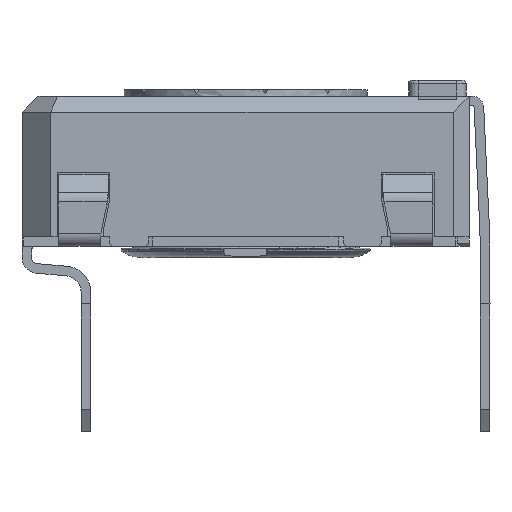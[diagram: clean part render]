
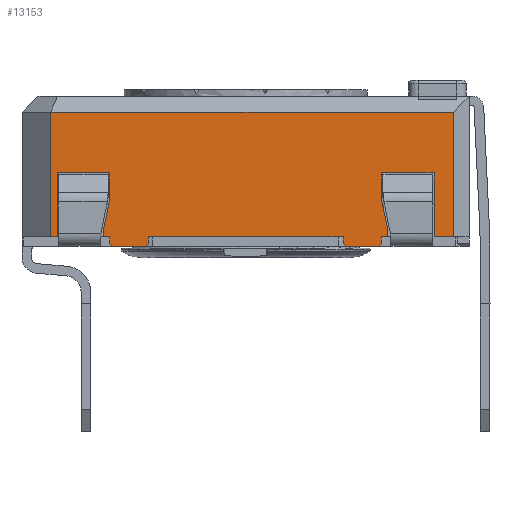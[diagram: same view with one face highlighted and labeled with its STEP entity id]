
A CAD part, left-side view. The second image highlights one B-rep face of the part: STEP entity #13153.
In plain terms, the highlighted planar face has unit normal (-1, 0, 0).
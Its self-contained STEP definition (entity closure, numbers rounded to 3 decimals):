
#1033=FACE_OUTER_BOUND('',#1731,.T.);
#1731=EDGE_LOOP('',(#10495,#10496,#10497,#10498,#10499,#10500,#10501,#10502,
#10503,#10504,#10505,#10506,#10507,#10508,#10509,#10510,#10511,#10512,#10513,
#10514,#10515,#10516,#10517,#10518,#10519,#10520,#10521,#10522));
#2737=LINE('',#20070,#4249);
#2743=LINE('',#20082,#4255);
#2746=LINE('',#20089,#4258);
#2751=LINE('',#20098,#4263);
#2771=LINE('',#20139,#4283);
#2785=LINE('',#20165,#4297);
#2789=LINE('',#20172,#4301);
#2804=LINE('',#20201,#4316);
#2807=LINE('',#20207,#4319);
#2812=LINE('',#20217,#4324);
#2815=LINE('',#20223,#4327);
#2818=LINE('',#20229,#4330);
#2836=LINE('',#20264,#4348);
#2848=LINE('',#20286,#4360);
#2851=LINE('',#20292,#4363);
#2888=LINE('',#20426,#4400);
#2891=LINE('',#20432,#4403);
#2917=LINE('',#20479,#4429);
#2922=LINE('',#20489,#4434);
#2924=LINE('',#20492,#4436);
#3048=LINE('',#20800,#4560);
#3050=LINE('',#20805,#4562);
#3053=LINE('',#20809,#4565);
#3055=LINE('',#20813,#4567);
#3058=LINE('',#20821,#4570);
#3059=LINE('',#20823,#4571);
#3060=LINE('',#20824,#4572);
#3061=LINE('',#20825,#4573);
#4249=VECTOR('',#16142,10.);
#4255=VECTOR('',#16150,10.);
#4258=VECTOR('',#16155,10.);
#4263=VECTOR('',#16162,10.);
#4283=VECTOR('',#16196,10.);
#4297=VECTOR('',#16210,10.);
#4301=VECTOR('',#16214,10.);
#4316=VECTOR('',#16241,10.);
#4319=VECTOR('',#16246,10.);
#4324=VECTOR('',#16253,10.);
#4327=VECTOR('',#16258,10.);
#4330=VECTOR('',#16263,10.);
#4348=VECTOR('',#16283,10.);
#4360=VECTOR('',#16297,10.);
#4363=VECTOR('',#16302,10.);
#4400=VECTOR('',#16383,10.);
#4403=VECTOR('',#16388,10.);
#4429=VECTOR('',#16416,10.);
#4434=VECTOR('',#16423,10.);
#4436=VECTOR('',#16427,10.);
#4560=VECTOR('',#16719,10.);
#4562=VECTOR('',#16723,10.);
#4565=VECTOR('',#16728,10.);
#4567=VECTOR('',#16734,10.);
#4570=VECTOR('',#16745,10.);
#4571=VECTOR('',#16746,10.);
#4572=VECTOR('',#16747,10.);
#4573=VECTOR('',#16748,10.);
#5664=VERTEX_POINT('',#20067);
#5665=VERTEX_POINT('',#20069);
#5669=VERTEX_POINT('',#20079);
#5671=VERTEX_POINT('',#20085);
#5673=VERTEX_POINT('',#20088);
#5676=VERTEX_POINT('',#20096);
#5701=VERTEX_POINT('',#20162);
#5702=VERTEX_POINT('',#20164);
#5704=VERTEX_POINT('',#20169);
#5705=VERTEX_POINT('',#20171);
#5712=VERTEX_POINT('',#20198);
#5714=VERTEX_POINT('',#20204);
#5718=VERTEX_POINT('',#20214);
#5720=VERTEX_POINT('',#20220);
#5723=VERTEX_POINT('',#20227);
#5739=VERTEX_POINT('',#20262);
#5748=VERTEX_POINT('',#20284);
#5750=VERTEX_POINT('',#20290);
#5777=VERTEX_POINT('',#20424);
#5778=VERTEX_POINT('',#20429);
#5798=VERTEX_POINT('',#20476);
#5802=VERTEX_POINT('',#20486);
#5876=VERTEX_POINT('',#20797);
#5877=VERTEX_POINT('',#20799);
#5878=VERTEX_POINT('',#20803);
#5879=VERTEX_POINT('',#20804);
#5880=VERTEX_POINT('',#20820);
#5881=VERTEX_POINT('',#20822);
#7189=EDGE_CURVE('',#5665,#5664,#2737,.T.);
#7195=EDGE_CURVE('',#5664,#5669,#2743,.T.);
#7198=EDGE_CURVE('',#5673,#5671,#2746,.T.);
#7203=EDGE_CURVE('',#5676,#5671,#2751,.T.);
#7223=EDGE_CURVE('',#5669,#5673,#2771,.T.);
#7237=EDGE_CURVE('',#5702,#5701,#2785,.T.);
#7241=EDGE_CURVE('',#5705,#5704,#2789,.T.);
#7257=EDGE_CURVE('',#5701,#5712,#2804,.T.);
#7260=EDGE_CURVE('',#5712,#5714,#2807,.T.);
#7265=EDGE_CURVE('',#5714,#5718,#2812,.T.);
#7268=EDGE_CURVE('',#5718,#5720,#2815,.T.);
#7271=EDGE_CURVE('',#5720,#5723,#2818,.T.);
#7289=EDGE_CURVE('',#5723,#5739,#2836,.T.);
#7301=EDGE_CURVE('',#5748,#5739,#2848,.T.);
#7304=EDGE_CURVE('',#5750,#5748,#2851,.T.);
#7353=EDGE_CURVE('',#5777,#5750,#2888,.T.);
#7356=EDGE_CURVE('',#5777,#5778,#2891,.T.);
#7382=EDGE_CURVE('',#5778,#5798,#2917,.T.);
#7387=EDGE_CURVE('',#5798,#5802,#2922,.T.);
#7389=EDGE_CURVE('',#5802,#5665,#2924,.T.);
#7529=EDGE_CURVE('',#5876,#5877,#3048,.T.);
#7531=EDGE_CURVE('',#5878,#5879,#3050,.T.);
#7534=EDGE_CURVE('',#5702,#5876,#3053,.T.);
#7536=EDGE_CURVE('',#5704,#5879,#3055,.T.);
#7539=EDGE_CURVE('',#5676,#5880,#3058,.T.);
#7540=EDGE_CURVE('',#5881,#5880,#3059,.T.);
#7541=EDGE_CURVE('',#5705,#5881,#3060,.T.);
#7542=EDGE_CURVE('',#5878,#5877,#3061,.T.);
#10495=ORIENTED_EDGE('',*,*,#7195,.T.);
#10496=ORIENTED_EDGE('',*,*,#7223,.T.);
#10497=ORIENTED_EDGE('',*,*,#7198,.T.);
#10498=ORIENTED_EDGE('',*,*,#7203,.F.);
#10499=ORIENTED_EDGE('',*,*,#7539,.T.);
#10500=ORIENTED_EDGE('',*,*,#7540,.F.);
#10501=ORIENTED_EDGE('',*,*,#7541,.F.);
#10502=ORIENTED_EDGE('',*,*,#7241,.T.);
#10503=ORIENTED_EDGE('',*,*,#7536,.T.);
#10504=ORIENTED_EDGE('',*,*,#7531,.F.);
#10505=ORIENTED_EDGE('',*,*,#7542,.T.);
#10506=ORIENTED_EDGE('',*,*,#7529,.F.);
#10507=ORIENTED_EDGE('',*,*,#7534,.F.);
#10508=ORIENTED_EDGE('',*,*,#7237,.T.);
#10509=ORIENTED_EDGE('',*,*,#7257,.T.);
#10510=ORIENTED_EDGE('',*,*,#7260,.T.);
#10511=ORIENTED_EDGE('',*,*,#7265,.T.);
#10512=ORIENTED_EDGE('',*,*,#7268,.T.);
#10513=ORIENTED_EDGE('',*,*,#7271,.T.);
#10514=ORIENTED_EDGE('',*,*,#7289,.T.);
#10515=ORIENTED_EDGE('',*,*,#7301,.F.);
#10516=ORIENTED_EDGE('',*,*,#7304,.F.);
#10517=ORIENTED_EDGE('',*,*,#7353,.F.);
#10518=ORIENTED_EDGE('',*,*,#7356,.T.);
#10519=ORIENTED_EDGE('',*,*,#7382,.T.);
#10520=ORIENTED_EDGE('',*,*,#7387,.T.);
#10521=ORIENTED_EDGE('',*,*,#7389,.T.);
#10522=ORIENTED_EDGE('',*,*,#7189,.T.);
#12315=PLANE('',#14047);
#13153=ADVANCED_FACE('',(#1033),#12315,.T.);
#14047=AXIS2_PLACEMENT_3D('',#20819,#16743,#16744);
#16142=DIRECTION('',(0.,0.208,-0.978));
#16150=DIRECTION('',(0.,0.,-1.));
#16155=DIRECTION('',(0.,0.,-1.));
#16162=DIRECTION('',(0.,0.707,0.707));
#16196=DIRECTION('',(0.,-1.,0.));
#16210=DIRECTION('',(0.,-1.,0.));
#16214=DIRECTION('',(0.,-1.,0.));
#16241=DIRECTION('',(0.,0.,1.));
#16246=DIRECTION('',(0.,0.208,0.978));
#16253=DIRECTION('',(0.,0.,1.));
#16258=DIRECTION('',(0.,-1.,0.));
#16263=DIRECTION('',(0.,0.,-1.));
#16283=DIRECTION('',(0.,-1.,0.));
#16297=DIRECTION('',(0.,0.,-1.));
#16302=DIRECTION('',(0.,-1.,0.));
#16383=DIRECTION('',(0.,0.,1.));
#16388=DIRECTION('',(0.,-1.,0.));
#16416=DIRECTION('',(0.,0.,1.));
#16423=DIRECTION('',(0.,-1.,0.));
#16427=DIRECTION('',(0.,0.,-1.));
#16719=DIRECTION('',(0.,0.707,-0.707));
#16723=DIRECTION('',(0.,0.707,0.707));
#16728=DIRECTION('',(0.,0.,-1.));
#16734=DIRECTION('',(0.,0.,-1.));
#16743=DIRECTION('center_axis',(-1.,0.,0.));
#16744=DIRECTION('ref_axis',(0.,0.,1.));
#16745=DIRECTION('',(0.,-1.,0.));
#16746=DIRECTION('',(0.,0.707,-0.707));
#16747=DIRECTION('',(0.,0.,-1.));
#16748=DIRECTION('',(0.,-1.,0.));
#20067=CARTESIAN_POINT('',(-14.467,1.552,0.235));
#20069=CARTESIAN_POINT('',(-14.467,1.352,1.176));
#20070=CARTESIAN_POINT('',(-14.467,1.228,1.757));
#20079=CARTESIAN_POINT('',(-14.467,1.552,0.));
#20082=CARTESIAN_POINT('',(-14.467,1.552,0.));
#20085=CARTESIAN_POINT('',(-14.467,1.352,-0.2));
#20088=CARTESIAN_POINT('',(-14.467,1.352,0.));
#20089=CARTESIAN_POINT('',(-14.467,1.352,0.));
#20096=CARTESIAN_POINT('',(-14.467,1.252,-0.3));
#20098=CARTESIAN_POINT('',(-14.467,-1.436,-2.988));
#20139=CARTESIAN_POINT('',(-14.467,4.102,0.));
#20162=CARTESIAN_POINT('',(-14.467,-7.348,0.));
#20164=CARTESIAN_POINT('',(-14.467,-7.148,0.));
#20165=CARTESIAN_POINT('',(-14.467,4.102,0.));
#20169=CARTESIAN_POINT('',(-14.467,-5.948,0.));
#20171=CARTESIAN_POINT('',(-14.467,0.152,0.));
#20172=CARTESIAN_POINT('',(-14.467,4.102,0.));
#20198=CARTESIAN_POINT('',(-14.467,-7.348,0.235));
#20201=CARTESIAN_POINT('',(-14.467,-7.348,0.118));
#20204=CARTESIAN_POINT('',(-14.467,-7.148,1.176));
#20207=CARTESIAN_POINT('',(-14.467,-7.453,-0.254));
#20214=CARTESIAN_POINT('',(-14.467,-7.148,2.));
#20217=CARTESIAN_POINT('',(-14.467,-7.148,0.588));
#20220=CARTESIAN_POINT('',(-14.467,-8.798,2.));
#20223=CARTESIAN_POINT('',(-14.467,-8.523,2.));
#20227=CARTESIAN_POINT('',(-14.467,-8.798,0.));
#20229=CARTESIAN_POINT('',(-14.467,-8.798,0.));
#20262=CARTESIAN_POINT('',(-14.467,-9.398,0.));
#20264=CARTESIAN_POINT('',(-14.467,-9.595,0.));
#20284=CARTESIAN_POINT('',(-14.467,-9.398,3.9));
#20286=CARTESIAN_POINT('',(-14.467,-9.398,0.));
#20290=CARTESIAN_POINT('',(-14.467,3.202,3.9));
#20292=CARTESIAN_POINT('',(-14.467,-6.398,3.9));
#20424=CARTESIAN_POINT('',(-14.467,3.202,0.));
#20426=CARTESIAN_POINT('',(-14.467,3.202,0.));
#20429=CARTESIAN_POINT('',(-14.467,3.002,0.));
#20432=CARTESIAN_POINT('',(-14.467,-2.985,0.));
#20476=CARTESIAN_POINT('',(-14.467,3.002,2.));
#20479=CARTESIAN_POINT('',(-14.467,3.002,0.));
#20486=CARTESIAN_POINT('',(-14.467,1.352,2.));
#20489=CARTESIAN_POINT('',(-14.467,-3.448,2.));
#20492=CARTESIAN_POINT('',(-14.467,1.352,1.));
#20797=CARTESIAN_POINT('',(-14.467,-7.148,-0.2));
#20799=CARTESIAN_POINT('',(-14.467,-7.048,-0.3));
#20800=CARTESIAN_POINT('',(-14.467,-7.861,0.513));
#20803=CARTESIAN_POINT('',(-14.467,-6.048,-0.3));
#20804=CARTESIAN_POINT('',(-14.467,-5.948,-0.2));
#20805=CARTESIAN_POINT('',(-14.467,-6.911,-1.163));
#20809=CARTESIAN_POINT('',(-14.467,-7.148,0.));
#20813=CARTESIAN_POINT('',(-14.467,-5.948,0.));
#20819=CARTESIAN_POINT('Origin',(-14.467,-9.898,0.));
#20820=CARTESIAN_POINT('',(-14.467,0.252,-0.3));
#20821=CARTESIAN_POINT('',(-14.467,0.152,-0.3));
#20822=CARTESIAN_POINT('',(-14.467,0.152,-0.2));
#20823=CARTESIAN_POINT('',(-14.467,-2.386,2.338));
#20824=CARTESIAN_POINT('',(-14.467,0.152,0.));
#20825=CARTESIAN_POINT('',(-14.467,-7.148,-0.3));
